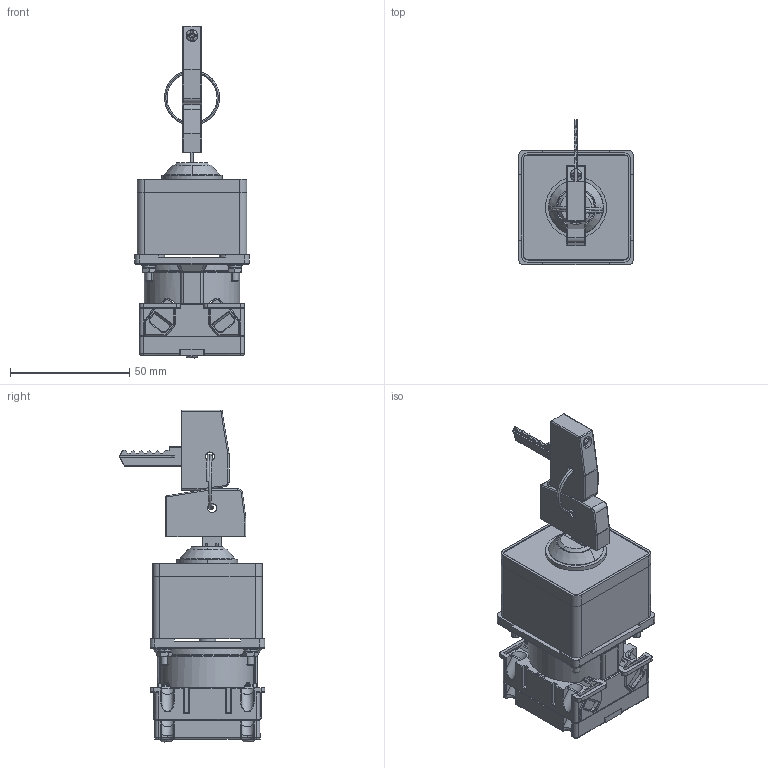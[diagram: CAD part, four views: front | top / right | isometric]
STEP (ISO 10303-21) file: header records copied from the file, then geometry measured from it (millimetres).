
FILE_DESCRIPTION (( 'STEP AP214' ), '1' );
FILE_NAME ('Ïåðåêëþ÷àòåëü 4G10-XXXX-U S5 1ê.STEP', '2022-11-25T13:18:39', ( '' ), ( '' ), 'SwSTEP 2.0', 'SolidWorks 2018', '' );
FILE_SCHEMA (( 'AUTOMOTIVE_DESIGN' ));
Length unit declared in the file: millimetre
Products named in the file (1): Ïåðåêëþ÷àòåëü 4G10-XXXX-U S5 1ê
Bounding box: 48 x 60.94 x 139.3 mm (x, y, z)
Volume: 138369 mm3; surface area: 70779.5 mm2
Topology: 41 solids, 49 shells, 2876 faces, 7374 edges, 4621 vertices
Faces by surface type: plane 1410, cylinder 1019, torus 196, cone 104, bspline 84, sphere 63
Entity records: 156270 total; most frequent: CARTESIAN_POINT 56230, ORIENTED_EDGE 14628, DIRECTION 13748, EDGE_CURVE 7314, AXIS2_PLACEMENT_3D 4723, VERTEX_POINT 4609, VECTOR 4302, LINE 4302
